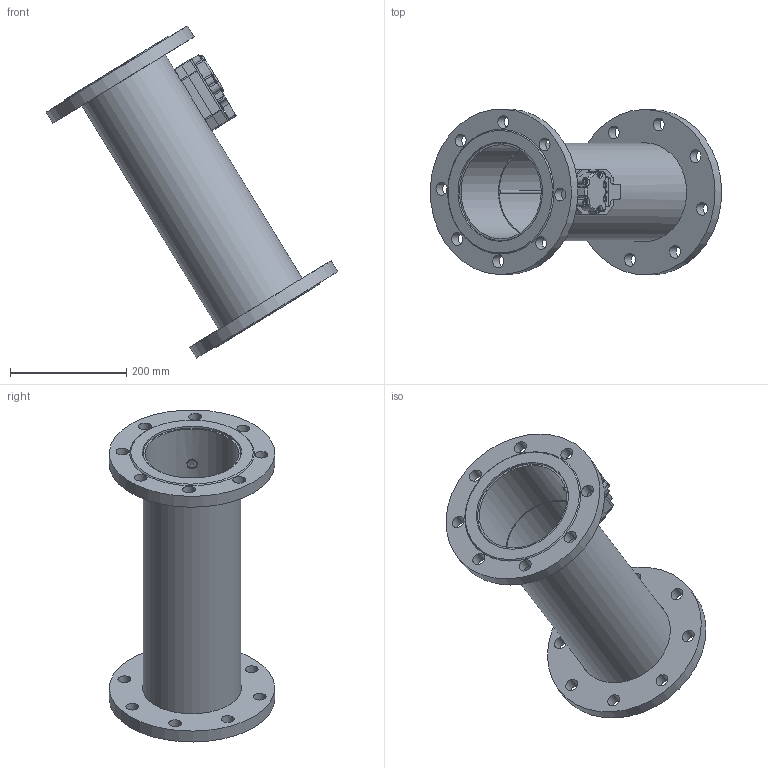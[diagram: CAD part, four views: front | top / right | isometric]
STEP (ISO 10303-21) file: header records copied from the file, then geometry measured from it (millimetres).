
FILE_DESCRIPTION( ( 'Unknown' ), '1' );
FILE_NAME( 'H:/440 pour vente_mai_2013/step_2/DN150_PN16_inox_500mm_rempli.stp', 'Unknown', ( 'Unknown' ), ( 'Unknown' ), 'PSStep 15.0.49', 'Unknown', ' ' );
FILE_SCHEMA( ( 'AUTOMOTIVE_DESIGN { 1 0 10303 214 1 1 1 1 }' ) );
Length unit declared in the file: millimetre
Products named in the file (9): 440_tête_rempli; 0440P011_rempli; 0440P012_rempli; 0440P060_rempli; Assem1; 0440P202_rempli; 0440P225_rempli; 0440P238_rempli; 0440P245_rempli
Assembly tree (10 placements, depth 3):
  Assem1
    0440P202_rempli
    0440P225_rempli  x2
    0440P238_rempli  x2
    0440P245_rempli
    440_tête_rempli
      0440P011_rempli
      0440P012_rempli
      0440P060_rempli
Bounding box: 501.82 x 284.95 x 571.76 mm (x, y, z)
Volume: 3203610.3 mm3; surface area: 847037.6 mm2
Topology: 9 solids, 14 shells, 276 faces, 691 edges, 435 vertices
Faces by surface type: cylinder 96, plane 79, cone 57, torus 29, bspline 15
Full cylindrical faces by diameter (mm): 2.2 x1, 2.459 x2, 2.5 x1, 3 x2, 3.242 x4, 4.1 x1, 5.03 x1, 6 x1, 6.2 x6, 6.917 x2, 10.2 x2, 16 x2, 20 x4, 22 x16, 162 x1, 168.3 x1, 170.5 x2, 285 x2
Entity records: 13572 total; most frequent: CARTESIAN_POINT 5526, DIRECTION 1281, ORIENTED_EDGE 1090, EDGE_CURVE 545, AXIS2_PLACEMENT_3D 538, VERTEX_POINT 377, EDGE_LOOP 362, FACE_OUTER_BOUND 297
